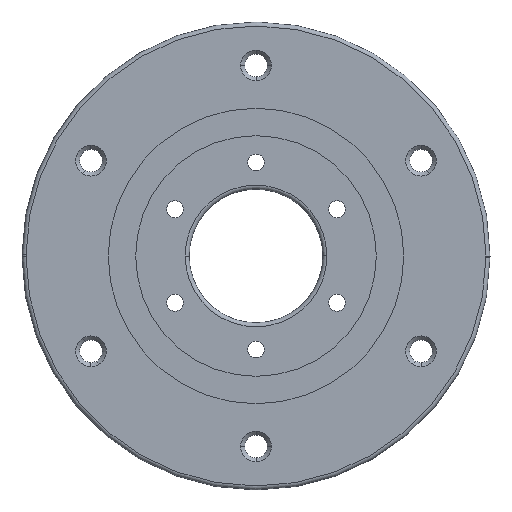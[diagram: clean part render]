
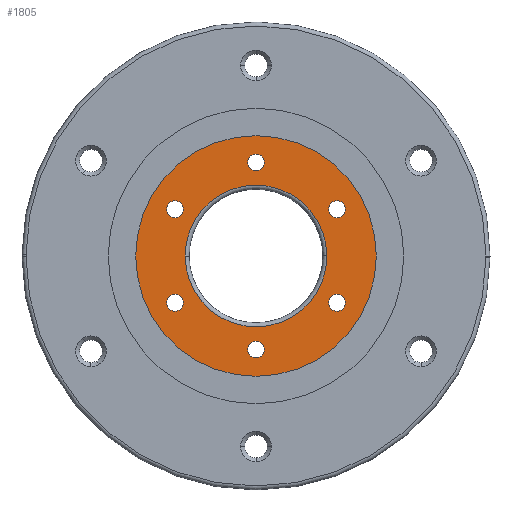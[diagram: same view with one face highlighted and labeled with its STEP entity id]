
A CAD part, front view. The second image highlights one B-rep face of the part: STEP entity #1805.
In plain terms, the highlighted planar face has unit normal (0, -1, 0).
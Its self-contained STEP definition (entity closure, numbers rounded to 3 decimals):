
#1307=EDGE_CURVE('',#2173,#2581,#3522,.T.);
#1323=EDGE_CURVE('',#3061,#2665,#3538,.T.);
#1341=EDGE_CURVE('',#2289,#1929,#3559,.T.);
#1417=EDGE_CURVE('',#3299,#2723,#3644,.T.);
#1449=VERTEX_POINT('',#3681);
#1733=VERTEX_POINT('',#3997);
#1805=ADVANCED_FACE('',(#4078,#4079,#4080,#4081,#4082,#4083,#4084,#4085),#4086,.F.);
#1889=EDGE_CURVE('',#2211,#2491,#4186,.T.);
#1907=EDGE_CURVE('',#2723,#3299,#4204,.T.);
#1929=VERTEX_POINT('',#4229);
#2063=EDGE_CURVE('',#2387,#2489,#4384,.T.);
#2103=EDGE_CURVE('',#2581,#2173,#4430,.T.);
#2173=VERTEX_POINT('',#4507);
#2211=VERTEX_POINT('',#4552);
#2247=EDGE_CURVE('',#1733,#1449,#4590,.T.);
#2289=VERTEX_POINT('',#4644);
#2315=EDGE_CURVE('',#2397,#3079,#4675,.T.);
#2387=VERTEX_POINT('',#4762);
#2397=VERTEX_POINT('',#4773);
#2437=VERTEX_POINT('',#4817);
#2467=EDGE_CURVE('',#2489,#2387,#4849,.T.);
#2489=VERTEX_POINT('',#4874);
#2491=VERTEX_POINT('',#4876);
#2555=EDGE_CURVE('',#1929,#2397,#4945,.T.);
#2581=VERTEX_POINT('',#4971);
#2665=VERTEX_POINT('',#5063);
#2723=VERTEX_POINT('',#5133);
#2845=EDGE_CURVE('',#1449,#1733,#5262,.T.);
#2877=EDGE_CURVE('',#2491,#2211,#5299,.T.);
#2901=VERTEX_POINT('',#5325);
#2941=EDGE_CURVE('',#2665,#3061,#5370,.T.);
#3051=EDGE_CURVE('',#2437,#2901,#5498,.T.);
#3061=VERTEX_POINT('',#5508);
#3079=VERTEX_POINT('',#5526);
#3165=EDGE_CURVE('',#2901,#2437,#5626,.T.);
#3299=VERTEX_POINT('',#5773);
#3415=EDGE_CURVE('',#3079,#2289,#5907,.T.);
#3522=CIRCLE('',#6055,18.0);
#3538=CIRCLE('',#6076,1.25);
#3559=CIRCLE('',#6101,10.6);
#3644=CIRCLE('',#6205,1.25);
#3681=CARTESIAN_POINT('',(12.749,0.0,5.917));
#3997=CARTESIAN_POINT('',(11.499,0.0,8.083));
#4078=FACE_OUTER_BOUND('',#6773,.T.);
#4079=FACE_BOUND('',#6774,.T.);
#4080=FACE_BOUND('',#6775,.T.);
#4081=FACE_BOUND('',#6776,.T.);
#4082=FACE_BOUND('',#6777,.T.);
#4083=FACE_BOUND('',#6778,.T.);
#4084=FACE_BOUND('',#6779,.T.);
#4085=FACE_BOUND('',#6780,.T.);
#4086=PLANE('',#6781);
#4186=CIRCLE('',#6914,1.25);
#4204=CIRCLE('',#6942,1.25);
#4229=CARTESIAN_POINT('',(-10.6,0.0,0.0));
#4384=CIRCLE('',#7164,1.25);
#4430=CIRCLE('',#7224,18.0);
#4507=CARTESIAN_POINT('',(-18.0,0.0,0.0));
#4552=CARTESIAN_POINT('',(-12.749,0.0,5.917));
#4590=CIRCLE('',#7419,1.25);
#4644=CARTESIAN_POINT('',(-10.6,0.0,-0.085));
#4675=CIRCLE('',#7523,10.6);
#4762=CARTESIAN_POINT('',(12.749,0.0,-5.917));
#4773=CARTESIAN_POINT('',(10.6,0.0,0.085));
#4817=CARTESIAN_POINT('',(-11.499,0.0,-8.083));
#4849=CIRCLE('',#7737,1.25);
#4874=CARTESIAN_POINT('',(11.499,0.0,-8.083));
#4876=CARTESIAN_POINT('',(-11.499,0.0,8.083));
#4945=CIRCLE('',#7856,10.6);
#4971=CARTESIAN_POINT('',(18.0,0.0,0.0));
#5063=CARTESIAN_POINT('',(-1.25,0.0,-14.0));
#5133=CARTESIAN_POINT('',(1.25,0.0,14.0));
#5262=CIRCLE('',#8277,1.25);
#5299=CIRCLE('',#8326,1.25);
#5325=CARTESIAN_POINT('',(-12.749,0.0,-5.917));
#5370=CIRCLE('',#8410,1.25);
#5498=CIRCLE('',#8562,1.25);
#5508=CARTESIAN_POINT('',(1.25,0.0,-14.0));
#5526=CARTESIAN_POINT('',(10.6,0.0,0.0));
#5626=CIRCLE('',#8728,1.25);
#5773=CARTESIAN_POINT('',(-1.25,0.0,14.0));
#5907=CIRCLE('',#9078,10.6);
#6055=AXIS2_PLACEMENT_3D('',#9119,#9120,#9121);
#6076=AXIS2_PLACEMENT_3D('',#9129,#9130,#9131);
#6101=AXIS2_PLACEMENT_3D('',#9165,#9166,#9167);
#6205=AXIS2_PLACEMENT_3D('',#9279,#9280,#9281);
#6773=EDGE_LOOP('',(#9875,#9876));
#6774=EDGE_LOOP('',(#9877,#9878,#9879,#9880));
#6775=EDGE_LOOP('',(#9881,#9882));
#6776=EDGE_LOOP('',(#9883,#9884));
#6777=EDGE_LOOP('',(#9885,#9886));
#6778=EDGE_LOOP('',(#9887,#9888));
#6779=EDGE_LOOP('',(#9889,#9890));
#6780=EDGE_LOOP('',(#9891,#9892));
#6781=AXIS2_PLACEMENT_3D('',#9893,#9894,#9895);
#6914=AXIS2_PLACEMENT_3D('',#10041,#10042,#10043);
#6942=AXIS2_PLACEMENT_3D('',#10051,#10052,#10053);
#7164=AXIS2_PLACEMENT_3D('',#10324,#10325,#10326);
#7224=AXIS2_PLACEMENT_3D('',#10387,#10388,#10389);
#7419=AXIS2_PLACEMENT_3D('',#10581,#10582,#10583);
#7523=AXIS2_PLACEMENT_3D('',#10718,#10719,#10720);
#7737=AXIS2_PLACEMENT_3D('',#10932,#10933,#10934);
#7856=AXIS2_PLACEMENT_3D('',#11036,#11037,#11038);
#8277=AXIS2_PLACEMENT_3D('',#11414,#11415,#11416);
#8326=AXIS2_PLACEMENT_3D('',#11476,#11477,#11478);
#8410=AXIS2_PLACEMENT_3D('',#11564,#11565,#11566);
#8562=AXIS2_PLACEMENT_3D('',#11733,#11734,#11735);
#8728=AXIS2_PLACEMENT_3D('',#11894,#11895,#11896);
#9078=AXIS2_PLACEMENT_3D('',#12252,#12253,#12254);
#9119=CARTESIAN_POINT('',(0.0,0.0,0.0));
#9120=DIRECTION('',(0.0,1.0,0.0));
#9121=DIRECTION('',(-1.0,0.0,0.0));
#9129=CARTESIAN_POINT('',(0.0,0.0,-14.0));
#9130=DIRECTION('',(-0.0,1.0,0.0));
#9131=DIRECTION('',(1.0,0.0,0.0));
#9165=CARTESIAN_POINT('',(0.0,0.0,0.0));
#9166=DIRECTION('',(-0.0,1.0,0.0));
#9167=DIRECTION('',(1.0,0.0,0.0));
#9279=CARTESIAN_POINT('',(0.0,0.0,14.0));
#9280=DIRECTION('',(0.0,1.0,0.0));
#9281=DIRECTION('',(-1.0,0.0,0.0));
#9875=ORIENTED_EDGE('',*,*,#1307,.F.);
#9876=ORIENTED_EDGE('',*,*,#2103,.F.);
#9877=ORIENTED_EDGE('',*,*,#2555,.T.);
#9878=ORIENTED_EDGE('',*,*,#2315,.T.);
#9879=ORIENTED_EDGE('',*,*,#3415,.T.);
#9880=ORIENTED_EDGE('',*,*,#1341,.T.);
#9881=ORIENTED_EDGE('',*,*,#2941,.T.);
#9882=ORIENTED_EDGE('',*,*,#1323,.T.);
#9883=ORIENTED_EDGE('',*,*,#3165,.T.);
#9884=ORIENTED_EDGE('',*,*,#3051,.T.);
#9885=ORIENTED_EDGE('',*,*,#2877,.T.);
#9886=ORIENTED_EDGE('',*,*,#1889,.T.);
#9887=ORIENTED_EDGE('',*,*,#1907,.T.);
#9888=ORIENTED_EDGE('',*,*,#1417,.T.);
#9889=ORIENTED_EDGE('',*,*,#2845,.T.);
#9890=ORIENTED_EDGE('',*,*,#2247,.T.);
#9891=ORIENTED_EDGE('',*,*,#2467,.T.);
#9892=ORIENTED_EDGE('',*,*,#2063,.T.);
#9893=CARTESIAN_POINT('',(0.0,0.0,0.0));
#9894=DIRECTION('',(0.0,1.0,0.0));
#9895=DIRECTION('',(1.0,0.0,-0.0));
#10041=CARTESIAN_POINT('',(-12.124,0.0,7.0));
#10042=DIRECTION('',(0.0,1.0,0.0));
#10043=DIRECTION('',(-0.5,0.0,-0.866));
#10051=CARTESIAN_POINT('',(0.0,0.0,14.0));
#10052=DIRECTION('',(-0.0,1.0,0.0));
#10053=DIRECTION('',(1.0,0.0,0.0));
#10324=CARTESIAN_POINT('',(12.124,0.0,-7.0));
#10325=DIRECTION('',(-0.0,1.0,0.0));
#10326=DIRECTION('',(0.5,0.0,0.866));
#10387=CARTESIAN_POINT('',(0.0,0.0,0.0));
#10388=DIRECTION('',(-0.0,1.0,0.0));
#10389=DIRECTION('',(1.0,0.0,0.0));
#10581=CARTESIAN_POINT('',(12.124,0.0,7.0));
#10582=DIRECTION('',(0.0,1.0,0.0));
#10583=DIRECTION('',(-0.5,0.0,0.866));
#10718=CARTESIAN_POINT('',(0.0,0.0,0.0));
#10719=DIRECTION('',(0.0,1.0,0.0));
#10720=DIRECTION('',(-1.0,0.0,0.0));
#10932=CARTESIAN_POINT('',(12.124,0.0,-7.0));
#10933=DIRECTION('',(0.0,1.0,0.0));
#10934=DIRECTION('',(-0.5,0.0,-0.866));
#11036=CARTESIAN_POINT('',(0.0,0.0,0.0));
#11037=DIRECTION('',(0.0,1.0,0.0));
#11038=DIRECTION('',(-1.0,0.0,0.0));
#11414=CARTESIAN_POINT('',(12.124,0.0,7.0));
#11415=DIRECTION('',(0.0,1.0,0.0));
#11416=DIRECTION('',(0.5,0.0,-0.866));
#11476=CARTESIAN_POINT('',(-12.124,0.0,7.0));
#11477=DIRECTION('',(-0.0,1.0,0.0));
#11478=DIRECTION('',(0.5,0.0,0.866));
#11564=CARTESIAN_POINT('',(0.0,0.0,-14.0));
#11565=DIRECTION('',(0.0,1.0,0.0));
#11566=DIRECTION('',(-1.0,0.0,0.0));
#11733=CARTESIAN_POINT('',(-12.124,0.0,-7.0));
#11734=DIRECTION('',(0.0,1.0,0.0));
#11735=DIRECTION('',(0.5,0.0,-0.866));
#11894=CARTESIAN_POINT('',(-12.124,0.0,-7.0));
#11895=DIRECTION('',(0.0,1.0,0.0));
#11896=DIRECTION('',(-0.5,0.0,0.866));
#12252=CARTESIAN_POINT('',(0.0,0.0,0.0));
#12253=DIRECTION('',(-0.0,1.0,0.0));
#12254=DIRECTION('',(1.0,0.0,0.0));
